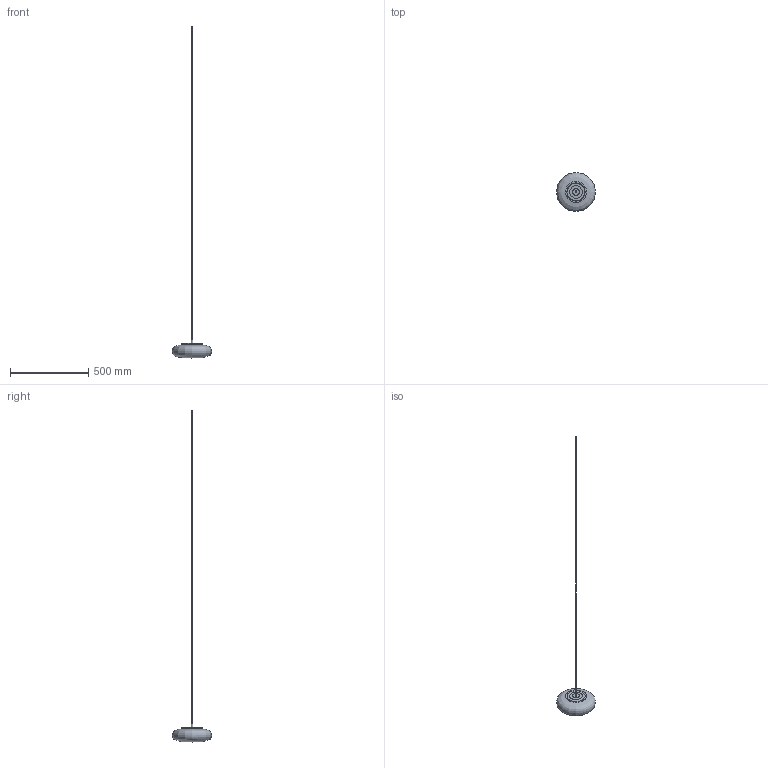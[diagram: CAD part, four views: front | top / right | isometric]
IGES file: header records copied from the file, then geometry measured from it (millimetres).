
Global section: file name: /Users/064_p/Desktop/3d data for homepage/SNOWBALL25 P.igs; native system: Rhinoceros ( Jul  7 2025 ); preprocessor: Trout Lake IGES 012 Jul  7 2025; date: 260805.081238; units: millimetre
Bounding box: 249.99 x 250 x 2119.84 mm (x, y, z)
Surface area: 186035.1 mm2 (no closed solid volume)
Topology: 0 solids, 0 shells, 14 faces, 53 edges, 42 vertices
Faces by surface type: bspline 14
